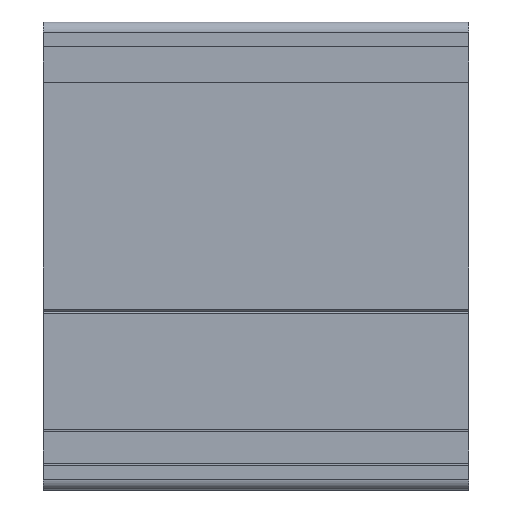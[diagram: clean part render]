
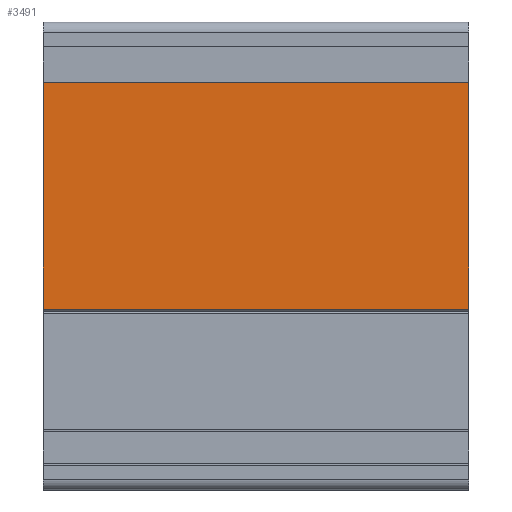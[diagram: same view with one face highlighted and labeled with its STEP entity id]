
A CAD part, front view. The second image highlights one B-rep face of the part: STEP entity #3491.
In plain terms, the highlighted planar face has unit normal (0, -1, 0).
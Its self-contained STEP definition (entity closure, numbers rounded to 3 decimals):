
#253 = CARTESIAN_POINT ( 'NONE',  ( -40.816, 9.898, -35.5 ) ) ;
#370 = ORIENTED_EDGE ( 'NONE', *, *, #3834, .F. ) ;
#762 = CARTESIAN_POINT ( 'NONE',  ( -40.816, 9.898, -35.5 ) ) ;
#776 = LINE ( 'NONE', #253, #4027 ) ;
#916 = DIRECTION ( 'NONE',  ( -1., 0., 0. ) ) ;
#951 = CARTESIAN_POINT ( 'NONE',  ( 59.184, 9.898, 17.85 ) ) ;
#1032 = EDGE_CURVE ( 'NONE', #4168, #1285, #4039, .T. ) ;
#1285 = VERTEX_POINT ( 'NONE', #2758 ) ;
#1454 = EDGE_CURVE ( 'NONE', #2048, #3694, #776, .T. ) ;
#1492 = CARTESIAN_POINT ( 'NONE',  ( -40.816, 9.898, 17.85 ) ) ;
#1616 = DIRECTION ( 'NONE',  ( 0., 0., -1. ) ) ;
#1659 = VECTOR ( 'NONE', #916, 1000. ) ;
#1727 = EDGE_LOOP ( 'NONE', ( #5519, #370, #5477, #2947 ) ) ;
#1739 = PLANE ( 'NONE',  #2230 ) ;
#2048 = VERTEX_POINT ( 'NONE', #1492 ) ;
#2139 = LINE ( 'NONE', #3553, #1659 ) ;
#2230 = AXIS2_PLACEMENT_3D ( 'NONE', #3888, #4777, #5262 ) ;
#2285 = FACE_OUTER_BOUND ( 'NONE', #1727, .T. ) ;
#2758 = CARTESIAN_POINT ( 'NONE',  ( 59.184, 9.898, -35.5 ) ) ;
#2765 = LINE ( 'NONE', #4837, #3528 ) ;
#2921 = DIRECTION ( 'NONE',  ( 0., 0., -1. ) ) ;
#2947 = ORIENTED_EDGE ( 'NONE', *, *, #3123, .T. ) ;
#3123 = EDGE_CURVE ( 'NONE', #4168, #2048, #2765, .T. ) ;
#3326 = VECTOR ( 'NONE', #2921, 1000. ) ;
#3491 = ADVANCED_FACE ( 'NONE', ( #2285 ), #1739, .F. ) ;
#3522 = DIRECTION ( 'NONE',  ( -1., 0., 0. ) ) ;
#3528 = VECTOR ( 'NONE', #3522, 1000. ) ;
#3553 = CARTESIAN_POINT ( 'NONE',  ( 59.184, 9.898, -35.5 ) ) ;
#3694 = VERTEX_POINT ( 'NONE', #762 ) ;
#3834 = EDGE_CURVE ( 'NONE', #1285, #3694, #2139, .T. ) ;
#3861 = CARTESIAN_POINT ( 'NONE',  ( 59.184, 9.898, -35.5 ) ) ;
#3888 = CARTESIAN_POINT ( 'NONE',  ( 59.184, 9.898, -35.5 ) ) ;
#4027 = VECTOR ( 'NONE', #1616, 1000. ) ;
#4039 = LINE ( 'NONE', #3861, #3326 ) ;
#4168 = VERTEX_POINT ( 'NONE', #951 ) ;
#4777 = DIRECTION ( 'NONE',  ( 0., 1., 0. ) ) ;
#4837 = CARTESIAN_POINT ( 'NONE',  ( 59.184, 9.898, 17.85 ) ) ;
#5262 = DIRECTION ( 'NONE',  ( 0., 0., 1. ) ) ;
#5477 = ORIENTED_EDGE ( 'NONE', *, *, #1032, .F. ) ;
#5519 = ORIENTED_EDGE ( 'NONE', *, *, #1454, .T. ) ;
